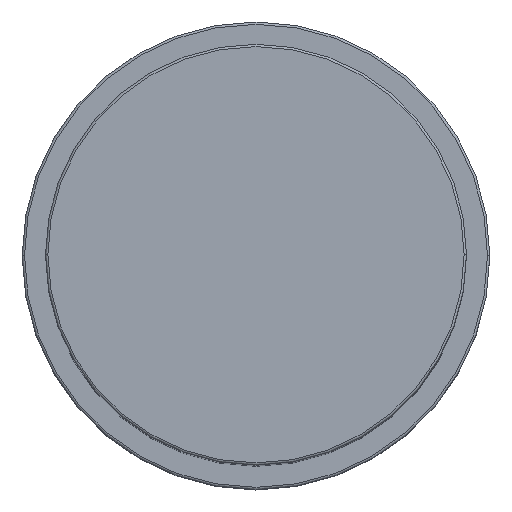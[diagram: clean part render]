
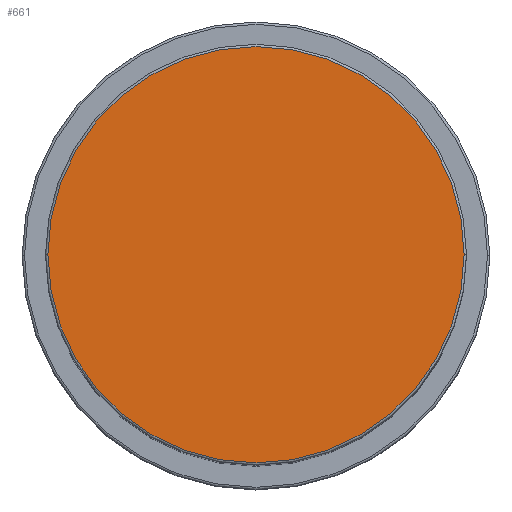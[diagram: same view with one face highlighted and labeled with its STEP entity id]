
A CAD part, top view. The second image highlights one B-rep face of the part: STEP entity #661.
In plain terms, the highlighted planar face has unit normal (0, 0, 1).
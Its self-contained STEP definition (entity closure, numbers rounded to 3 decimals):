
#157 = DIRECTION ( 'NONE',  ( 0., 0., 1. ) ) ;
#211 = DIRECTION ( 'NONE',  ( 1., 0., 0. ) ) ;
#221 = CARTESIAN_POINT ( 'NONE',  ( 0., 0., 154. ) ) ;
#279 = VERTEX_POINT ( 'NONE', #1163 ) ;
#337 = ORIENTED_EDGE ( 'NONE', *, *, #869, .T. ) ;
#422 = CARTESIAN_POINT ( 'NONE',  ( 0., 0., 154. ) ) ;
#476 = AXIS2_PLACEMENT_3D ( 'NONE', #422, #535, #577 ) ;
#535 = DIRECTION ( 'NONE',  ( 0., 0., 1. ) ) ;
#577 = DIRECTION ( 'NONE',  ( 1., 0., 0. ) ) ;
#597 = ORIENTED_EDGE ( 'NONE', *, *, #1099, .T. ) ;
#648 = AXIS2_PLACEMENT_3D ( 'NONE', #1063, #157, #1577 ) ;
#661 = ADVANCED_FACE ( 'NONE', ( #1219 ), #1192, .T. ) ;
#737 = DIRECTION ( 'NONE',  ( 0., 0., 1. ) ) ;
#772 = CIRCLE ( 'NONE', #648, 44.5 ) ;
#869 = EDGE_CURVE ( 'NONE', #279, #1455, #1312, .T. ) ;
#1063 = CARTESIAN_POINT ( 'NONE',  ( 0., 0., 154. ) ) ;
#1099 = EDGE_CURVE ( 'NONE', #1455, #279, #772, .T. ) ;
#1131 = AXIS2_PLACEMENT_3D ( 'NONE', #221, #737, #211 ) ;
#1163 = CARTESIAN_POINT ( 'NONE',  ( -44.5, 0., 154. ) ) ;
#1186 = CARTESIAN_POINT ( 'NONE',  ( 44.5, 0., 154. ) ) ;
#1192 = PLANE ( 'NONE',  #476 ) ;
#1219 = FACE_OUTER_BOUND ( 'NONE', #1243, .T. ) ;
#1243 = EDGE_LOOP ( 'NONE', ( #597, #337 ) ) ;
#1312 = CIRCLE ( 'NONE', #1131, 44.5 ) ;
#1455 = VERTEX_POINT ( 'NONE', #1186 ) ;
#1577 = DIRECTION ( 'NONE',  ( 1., 0., 0. ) ) ;
